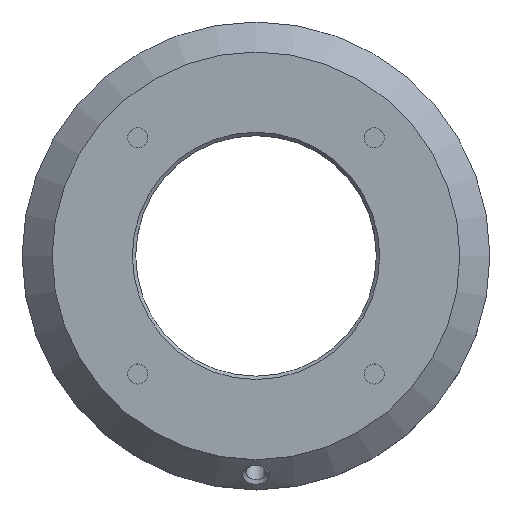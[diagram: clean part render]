
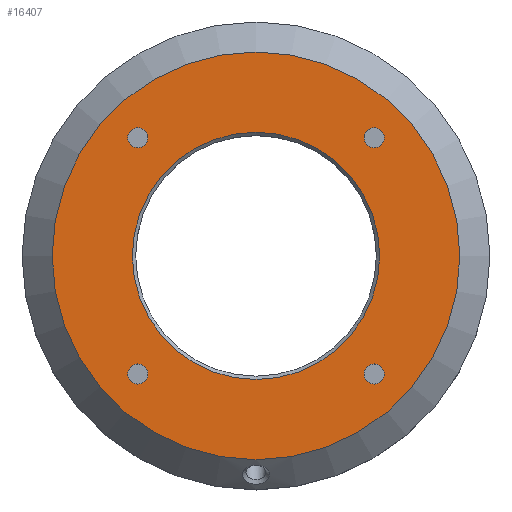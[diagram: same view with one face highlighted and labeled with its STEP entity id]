
A CAD part, top view. The second image highlights one B-rep face of the part: STEP entity #16407.
In plain terms, the highlighted planar face has unit normal (0, 0, 1).
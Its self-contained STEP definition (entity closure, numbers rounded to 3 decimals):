
#16312=CARTESIAN_POINT('',(18.5,0.,19.0));
#16313=VERTEX_POINT('',#16312);
#16314=CARTESIAN_POINT('',(0.0,0.,19.0));
#16315=DIRECTION('',(0.0,0.0,1.0));
#16316=DIRECTION('',(-1.0,0.0,0.0));
#16317=AXIS2_PLACEMENT_3D('',#16314,#16315,#16316);
#16318=CIRCLE('',#16317,18.5);
#16319=EDGE_CURVE('',#16313,#16313,#16318,.T.);
#16344=CARTESIAN_POINT('',(0.0,0.,19.0));
#16345=DIRECTION('',(0.0,0.0,-1.0));
#16346=DIRECTION('',(-1.0,0.0,0.0));
#16347=AXIS2_PLACEMENT_3D('',#16344,#16345,#16346);
#16348=PLANE('',#16347);
#16349=CARTESIAN_POINT('',(0.0,-30.5,19.0));
#16350=VERTEX_POINT('',#16349);
#16351=CARTESIAN_POINT('',(0.0,0.,19.0));
#16352=DIRECTION('',(0.0,0.0,1.0));
#16353=DIRECTION('',(0.0,-1.0,0.0));
#16354=AXIS2_PLACEMENT_3D('',#16351,#16352,#16353);
#16355=CIRCLE('',#16354,30.5);
#16356=EDGE_CURVE('',#16350,#16350,#16355,.T.);
#16357=ORIENTED_EDGE('',*,*,#16356,.T.);
#16358=EDGE_LOOP('',(#16357));
#16359=FACE_OUTER_BOUND('',#16358,.T.);
#16360=CARTESIAN_POINT('',(19.178,17.678,19.0));
#16361=VERTEX_POINT('',#16360);
#16362=CARTESIAN_POINT('',(17.678,17.678,19.0));
#16363=DIRECTION('',(0.0,0.0,-1.0));
#16364=DIRECTION('',(-1.0,0.0,0.0));
#16365=AXIS2_PLACEMENT_3D('',#16362,#16363,#16364);
#16366=CIRCLE('',#16365,1.5);
#16367=EDGE_CURVE('',#16361,#16361,#16366,.T.);
#16368=ORIENTED_EDGE('',*,*,#16367,.T.);
#16369=EDGE_LOOP('',(#16368));
#16370=FACE_BOUND('',#16369,.T.);
#16371=CARTESIAN_POINT('',(-17.678,19.178,19.0));
#16372=VERTEX_POINT('',#16371);
#16373=CARTESIAN_POINT('',(-17.678,17.678,19.0));
#16374=DIRECTION('',(0.0,0.0,-1.0));
#16375=DIRECTION('',(0.0,-1.0,0.0));
#16376=AXIS2_PLACEMENT_3D('',#16373,#16374,#16375);
#16377=CIRCLE('',#16376,1.5);
#16378=EDGE_CURVE('',#16372,#16372,#16377,.T.);
#16379=ORIENTED_EDGE('',*,*,#16378,.T.);
#16380=EDGE_LOOP('',(#16379));
#16381=FACE_BOUND('',#16380,.T.);
#16382=CARTESIAN_POINT('',(-19.178,-17.678,19.0));
#16383=VERTEX_POINT('',#16382);
#16384=CARTESIAN_POINT('',(-17.678,-17.678,19.0));
#16385=DIRECTION('',(0.0,0.0,-1.0));
#16386=DIRECTION('',(1.0,0.0,0.0));
#16387=AXIS2_PLACEMENT_3D('',#16384,#16385,#16386);
#16388=CIRCLE('',#16387,1.5);
#16389=EDGE_CURVE('',#16383,#16383,#16388,.T.);
#16390=ORIENTED_EDGE('',*,*,#16389,.T.);
#16391=EDGE_LOOP('',(#16390));
#16392=FACE_BOUND('',#16391,.T.);
#16393=CARTESIAN_POINT('',(17.678,-19.178,19.0));
#16394=VERTEX_POINT('',#16393);
#16395=CARTESIAN_POINT('',(17.678,-17.678,19.0));
#16396=DIRECTION('',(0.0,0.0,-1.0));
#16397=DIRECTION('',(0.0,1.0,0.0));
#16398=AXIS2_PLACEMENT_3D('',#16395,#16396,#16397);
#16399=CIRCLE('',#16398,1.5);
#16400=EDGE_CURVE('',#16394,#16394,#16399,.T.);
#16401=ORIENTED_EDGE('',*,*,#16400,.T.);
#16402=EDGE_LOOP('',(#16401));
#16403=FACE_BOUND('',#16402,.T.);
#16404=ORIENTED_EDGE('',*,*,#16319,.F.);
#16405=EDGE_LOOP('',(#16404));
#16406=FACE_BOUND('',#16405,.T.);
#16407=ADVANCED_FACE('',(#16359,#16370,#16381,#16392,#16403,#16406),#16348,.F.);
